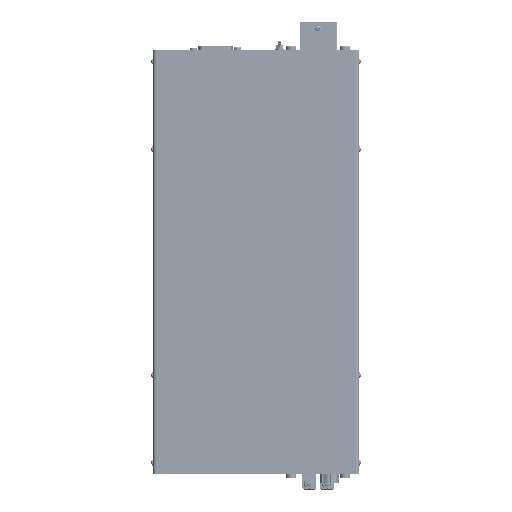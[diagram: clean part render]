
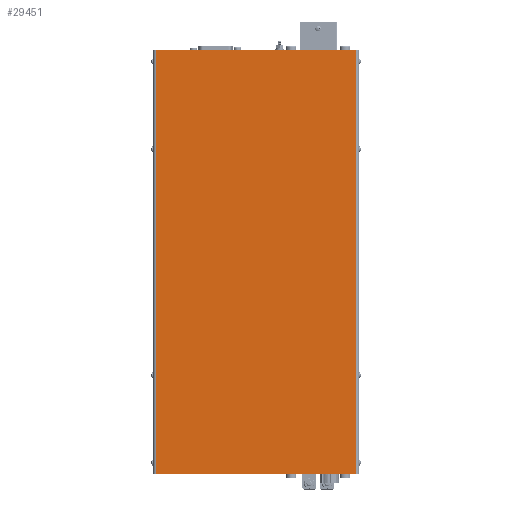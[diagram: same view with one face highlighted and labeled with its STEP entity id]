
A CAD part, top view. The second image highlights one B-rep face of the part: STEP entity #29451.
In plain terms, the highlighted planar face has unit normal (0, 0, 1).
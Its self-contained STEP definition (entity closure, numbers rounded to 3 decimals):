
#29451=ADVANCED_FACE('',(#59728),#59729,.T.);
#59728=FACE_OUTER_BOUND('',#99988,.T.);
#59729=PLANE('',#99989);
#99988=EDGE_LOOP('',(#182912,#182913,#182914,#182915));
#99989=AXIS2_PLACEMENT_3D('',#182916,#182917,#182918);
#182912=ORIENTED_EDGE('',*,*,#218296,.F.);
#182913=ORIENTED_EDGE('',*,*,#217421,.T.);
#182914=ORIENTED_EDGE('',*,*,#218299,.F.);
#182915=ORIENTED_EDGE('',*,*,#218300,.T.);
#182916=CARTESIAN_POINT('',(109.3,222.0,86.5));
#182917=DIRECTION('',(0.0,0.0,1.0));
#182918=DIRECTION('',(1.0,0.0,0.0));
#217421=EDGE_CURVE('',#265224,#265222,#265225,.F.);
#218296=EDGE_CURVE('',#265224,#266364,#266365,.F.);
#218299=EDGE_CURVE('',#266368,#265222,#266369,.F.);
#218300=EDGE_CURVE('',#266368,#266364,#266370,.F.);
#265222=VERTEX_POINT('',#336530);
#265224=VERTEX_POINT('',#336532);
#265225=LINE('',#336533,#336534);
#266364=VERTEX_POINT('',#338228);
#266365=LINE('',#338229,#338230);
#266368=VERTEX_POINT('',#338233);
#266369=LINE('',#338234,#338235);
#266370=LINE('',#338236,#338237);
#336530=CARTESIAN_POINT('',(215.1,-3.0,86.5));
#336532=CARTESIAN_POINT('',(3.5,-3.0,86.5));
#336533=CARTESIAN_POINT('',(-40.7,-3.0,86.5));
#336534=VECTOR('',#374508,1.0);
#338228=CARTESIAN_POINT('',(3.5,447.0,86.5));
#338229=CARTESIAN_POINT('',(3.5,222.0,86.5));
#338230=VECTOR('',#375100,1.0);
#338233=CARTESIAN_POINT('',(215.1,447.0,86.5));
#338234=CARTESIAN_POINT('',(215.1,222.0,86.5));
#338235=VECTOR('',#375104,1.0);
#338236=CARTESIAN_POINT('',(-40.7,447.0,86.5));
#338237=VECTOR('',#375105,1.0);
#374508=DIRECTION('',(-1.0,0.0,0.0));
#375100=DIRECTION('',(0.0,-1.0,0.0));
#375104=DIRECTION('',(0.0,1.0,0.0));
#375105=DIRECTION('',(1.0,0.0,0.0));
